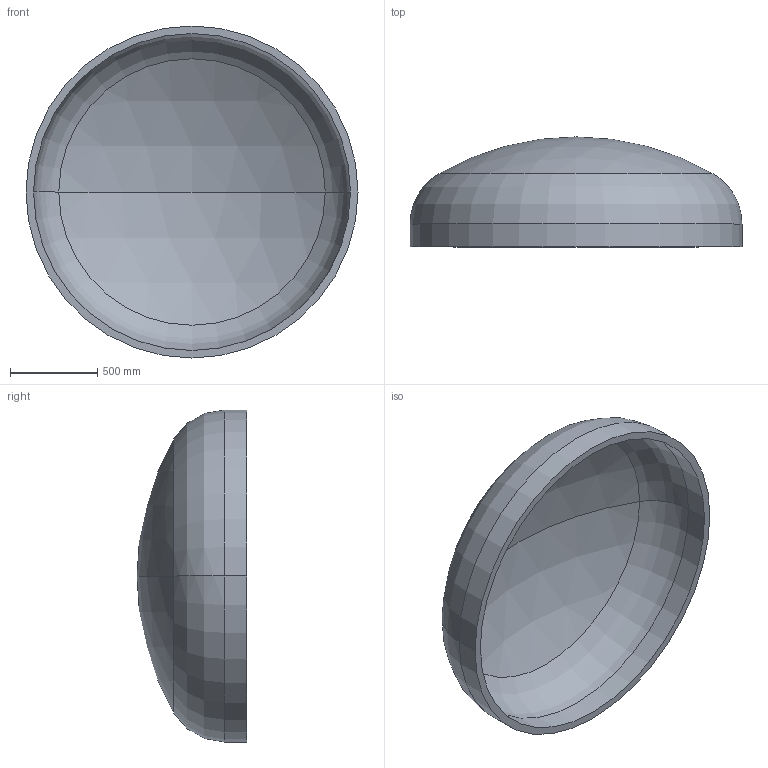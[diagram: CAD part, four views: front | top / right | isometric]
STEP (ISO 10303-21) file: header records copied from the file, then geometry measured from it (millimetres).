
FILE_DESCRIPTION (( 'STEP AP203' ), '1' );
FILE_NAME ('DIN 28013 Korbbogenform_-_Boden DIN 28013 - 1900 x 130 - I - s=43.step', '2016-07-01T13:09:51', ( '' ), ( '' ), 'SwSTEP 2.0', 'SolidWorks 2013', '' );
FILE_SCHEMA (( 'CONFIG_CONTROL_DESIGN' ));
Length unit declared in the file: millimetre
Products named in the file (1): DIN 28013 Korbbogenform_-_Boden DIN 28013 - 1900 x 130 - I - s=43
Bounding box: 1900 x 628.95 x 1900 mm (x, y, z)
Volume: 196228048.2 mm3; surface area: 9381615 mm2
Topology: 1 solids, 1 shells, 13 faces, 24 edges, 14 vertices
Faces by surface type: torus 4, cylinder 4, sphere 4, plane 1
Entity records: 407 total; most frequent: DIRECTION 72, CARTESIAN_POINT 52, ORIENTED_EDGE 48, AXIS2_PLACEMENT_3D 34, EDGE_CURVE 24, CIRCLE 20, EDGE_LOOP 14, VERTEX_POINT 14
